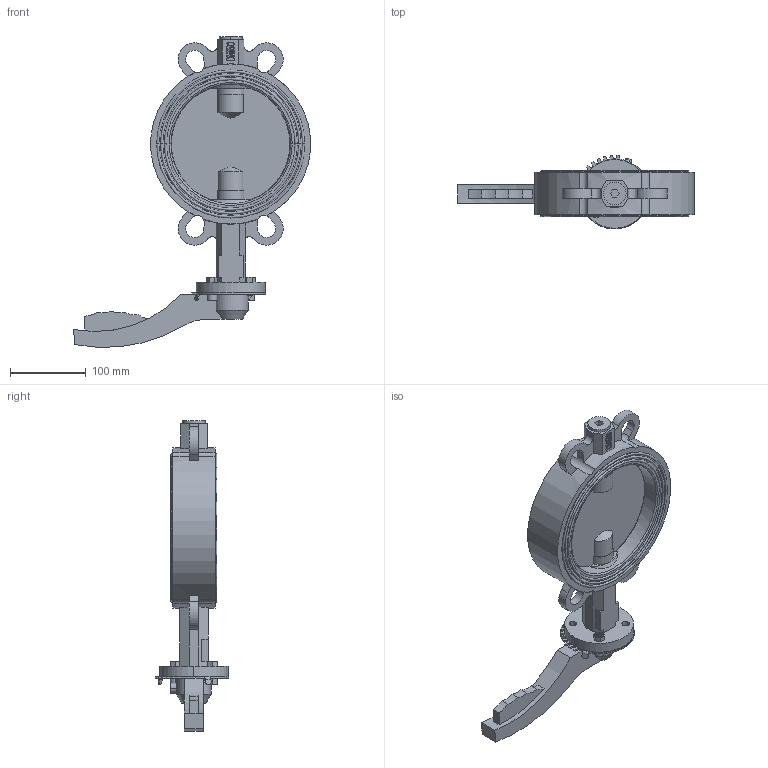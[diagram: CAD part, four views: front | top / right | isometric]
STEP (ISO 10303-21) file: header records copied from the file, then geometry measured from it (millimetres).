
FILE_DESCRIPTION((''),'2;1');
FILE_NAME('SB_RUCHKA_ASM','2023-12-24T',('DIMA'),(''),'PRO/ENGINEER BY PARAMETRIC TECHNOLOGY CORPORATION, 2008020','PRO/ENGINEER BY PARAMETRIC TECHNOLOGY CORPORATION, 2008020','');
FILE_SCHEMA(('CONFIG_CONTROL_DESIGN'));
Length unit declared in the file: millimetre
Products named in the file (18): KORPUS; REZ; DISK; SHTIR_1; ZAGLUSHKA; O-RING; SHTIR_2; SHAIBA_RAZREZ; SHAIBA; KOLCO_30_GOST13943; VTULKA; MANZET_REZ; SB_ASM; PLASTINA; RUCHKA; V-11738-M8X20; G-5915-M8; SB_RUCHKA_ASM
Assembly tree (26 placements, depth 3):
  SB_RUCHKA_ASM
    SB_ASM
      KORPUS
      REZ
      DISK
      SHTIR_1
      ZAGLUSHKA
      O-RING  x2
      SHTIR_2
      SHAIBA_RAZREZ
      SHAIBA  x2
      KOLCO_30_GOST13943
      VTULKA  x5
      MANZET_REZ
    PLASTINA
    RUCHKA
    V-11738-M8X20  x3
    G-5915-M8  x2
Bounding box: 313.61 x 97.83 x 411.09 mm (x, y, z)
Volume: 1694438.7 mm3; surface area: 410160.9 mm2
Topology: 25 solids, 32 shells, 706 faces, 1825 edges, 1198 vertices
Faces by surface type: plane 404, cylinder 215, cone 55, torus 28, bspline 4
Entity records: 20467 total; most frequent: CARTESIAN_POINT 4140, DIRECTION 3469, ORIENTED_EDGE 3248, EDGE_CURVE 1635, AXIS2_PLACEMENT_3D 1224, VERTEX_POINT 1074, VECTOR 1021, LINE 1021
